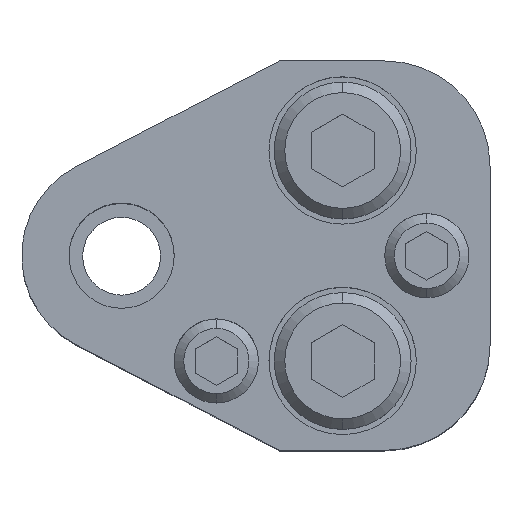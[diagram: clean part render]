
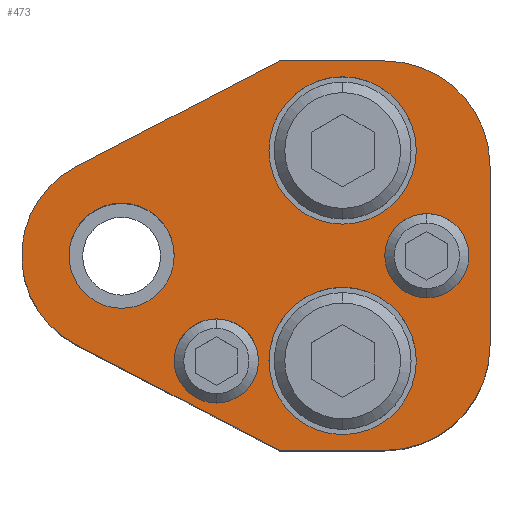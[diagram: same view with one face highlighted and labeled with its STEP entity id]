
A CAD part, top view. The second image highlights one B-rep face of the part: STEP entity #473.
In plain terms, the highlighted planar face has unit normal (0, 0, 1).
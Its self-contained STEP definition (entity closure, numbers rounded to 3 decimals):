
#223=FACE_BOUND('',#843,.T.);
#224=FACE_BOUND('',#844,.T.);
#225=FACE_BOUND('',#845,.T.);
#226=FACE_BOUND('',#846,.T.);
#227=FACE_BOUND('',#847,.T.);
#228=FACE_BOUND('',#848,.T.);
#273=CIRCLE('',#2646,9.5);
#275=CIRCLE('',#2651,10.);
#277=CIRCLE('',#2655,10.);
#287=CIRCLE('',#2672,7.);
#289=CIRCLE('',#2675,7.);
#291=CIRCLE('',#2679,7.);
#293=CIRCLE('',#2682,7.);
#300=CIRCLE('',#2693,5.);
#302=CIRCLE('',#2696,5.);
#321=CIRCLE('',#2730,4.);
#322=CIRCLE('',#2731,4.);
#323=CIRCLE('',#2732,4.);
#324=CIRCLE('',#2733,4.);
#473=ADVANCED_FACE('',(#223,#224,#225,#226,#227,#228),#591,.T.);
#591=PLANE('',#2734);
#843=EDGE_LOOP('',(#1241,#1242,#1243,#1244,#1245,#1246,#1247,#1248));
#844=EDGE_LOOP('',(#1249,#1250));
#845=EDGE_LOOP('',(#1251,#1252));
#846=EDGE_LOOP('',(#1253,#1254));
#847=EDGE_LOOP('',(#1255,#1256));
#848=EDGE_LOOP('',(#1257,#1258));
#1241=ORIENTED_EDGE('',*,*,#1934,.T.);
#1242=ORIENTED_EDGE('',*,*,#1938,.T.);
#1243=ORIENTED_EDGE('',*,*,#1941,.T.);
#1244=ORIENTED_EDGE('',*,*,#1944,.T.);
#1245=ORIENTED_EDGE('',*,*,#1947,.T.);
#1246=ORIENTED_EDGE('',*,*,#1950,.T.);
#1247=ORIENTED_EDGE('',*,*,#1953,.T.);
#1248=ORIENTED_EDGE('',*,*,#1956,.T.);
#1249=ORIENTED_EDGE('',*,*,#2021,.F.);
#1250=ORIENTED_EDGE('',*,*,#2022,.F.);
#1251=ORIENTED_EDGE('',*,*,#2023,.F.);
#1252=ORIENTED_EDGE('',*,*,#2024,.F.);
#1253=ORIENTED_EDGE('',*,*,#1979,.F.);
#1254=ORIENTED_EDGE('',*,*,#1975,.F.);
#1255=ORIENTED_EDGE('',*,*,#1973,.F.);
#1256=ORIENTED_EDGE('',*,*,#1969,.F.);
#1257=ORIENTED_EDGE('',*,*,#1989,.T.);
#1258=ORIENTED_EDGE('',*,*,#1992,.T.);
#1688=VERTEX_POINT('',#3846);
#1689=VERTEX_POINT('',#3848);
#1692=VERTEX_POINT('',#3855);
#1694=VERTEX_POINT('',#3861);
#1696=VERTEX_POINT('',#3867);
#1698=VERTEX_POINT('',#3873);
#1700=VERTEX_POINT('',#3879);
#1702=VERTEX_POINT('',#3885);
#1711=VERTEX_POINT('',#3917);
#1712=VERTEX_POINT('',#3918);
#1715=VERTEX_POINT('',#3930);
#1716=VERTEX_POINT('',#3931);
#1725=VERTEX_POINT('',#3958);
#1726=VERTEX_POINT('',#3960);
#1745=VERTEX_POINT('',#4027);
#1746=VERTEX_POINT('',#4028);
#1747=VERTEX_POINT('',#4031);
#1748=VERTEX_POINT('',#4032);
#1934=EDGE_CURVE('',#1689,#1688,#273,.T.);
#1938=EDGE_CURVE('',#1688,#1692,#2266,.T.);
#1941=EDGE_CURVE('',#1692,#1694,#2269,.T.);
#1944=EDGE_CURVE('',#1694,#1696,#275,.T.);
#1947=EDGE_CURVE('',#1696,#1698,#2273,.T.);
#1950=EDGE_CURVE('',#1698,#1700,#277,.T.);
#1953=EDGE_CURVE('',#1700,#1702,#2277,.T.);
#1956=EDGE_CURVE('',#1702,#1689,#2280,.T.);
#1969=EDGE_CURVE('',#1711,#1712,#287,.T.);
#1973=EDGE_CURVE('',#1712,#1711,#289,.T.);
#1975=EDGE_CURVE('',#1715,#1716,#291,.T.);
#1979=EDGE_CURVE('',#1716,#1715,#293,.T.);
#1989=EDGE_CURVE('',#1726,#1725,#300,.T.);
#1992=EDGE_CURVE('',#1725,#1726,#302,.T.);
#2021=EDGE_CURVE('',#1745,#1746,#321,.T.);
#2022=EDGE_CURVE('',#1746,#1745,#322,.T.);
#2023=EDGE_CURVE('',#1747,#1748,#323,.T.);
#2024=EDGE_CURVE('',#1748,#1747,#324,.T.);
#2266=LINE('',#3856,#2458);
#2269=LINE('',#3862,#2461);
#2273=LINE('',#3874,#2465);
#2277=LINE('',#3886,#2469);
#2280=LINE('',#3890,#2472);
#2458=VECTOR('',#3056,1.);
#2461=VECTOR('',#3061,1.);
#2465=VECTOR('',#3073,1.);
#2469=VECTOR('',#3085,1.);
#2472=VECTOR('',#3090,1.);
#2646=AXIS2_PLACEMENT_3D('',#3847,#3048,#3049);
#2651=AXIS2_PLACEMENT_3D('',#3868,#3066,#3067);
#2655=AXIS2_PLACEMENT_3D('',#3880,#3078,#3079);
#2672=AXIS2_PLACEMENT_3D('',#3916,#3121,#3122);
#2675=AXIS2_PLACEMENT_3D('',#3925,#3129,#3130);
#2679=AXIS2_PLACEMENT_3D('',#3929,#3137,#3138);
#2682=AXIS2_PLACEMENT_3D('',#3938,#3145,#3146);
#2693=AXIS2_PLACEMENT_3D('',#3959,#3170,#3171);
#2696=AXIS2_PLACEMENT_3D('',#3964,#3177,#3178);
#2730=AXIS2_PLACEMENT_3D('',#4026,#3255,#3256);
#2731=AXIS2_PLACEMENT_3D('',#4029,#3257,#3258);
#2732=AXIS2_PLACEMENT_3D('',#4030,#3259,#3260);
#2733=AXIS2_PLACEMENT_3D('',#4033,#3261,#3262);
#2734=AXIS2_PLACEMENT_3D('',#4034,#3263,#3264);
#3048=DIRECTION('',(0.,0.,1.));
#3049=DIRECTION('',(0.,1.,0.));
#3056=DIRECTION('',(0.887,-0.461,0.));
#3061=DIRECTION('',(1.,0.,0.));
#3066=DIRECTION('',(0.,0.,1.));
#3067=DIRECTION('',(-0.707,0.707,0.));
#3073=DIRECTION('',(0.,1.,0.));
#3078=DIRECTION('',(0.,0.,1.));
#3079=DIRECTION('',(-0.707,-0.707,0.));
#3085=DIRECTION('',(-1.,0.,0.));
#3090=DIRECTION('',(-0.887,-0.461,0.));
#3121=DIRECTION('',(0.,0.,1.));
#3122=DIRECTION('',(-1.,0.,0.));
#3129=DIRECTION('',(0.,0.,1.));
#3130=DIRECTION('',(1.,0.,0.));
#3137=DIRECTION('',(0.,0.,1.));
#3138=DIRECTION('',(-1.,0.,0.));
#3145=DIRECTION('',(0.,0.,1.));
#3146=DIRECTION('',(1.,0.,0.));
#3170=DIRECTION('',(0.,0.,-1.));
#3171=DIRECTION('',(-1.,0.,0.));
#3177=DIRECTION('',(0.,0.,-1.));
#3178=DIRECTION('',(1.,0.,0.));
#3255=DIRECTION('',(0.,0.,1.));
#3256=DIRECTION('',(1.,0.,0.));
#3257=DIRECTION('',(0.,0.,1.));
#3258=DIRECTION('',(-1.,0.,0.));
#3259=DIRECTION('',(0.,0.,1.));
#3260=DIRECTION('',(1.,0.,0.));
#3261=DIRECTION('',(0.,0.,1.));
#3262=DIRECTION('',(-1.,0.,0.));
#3263=DIRECTION('',(0.,0.,1.));
#3264=DIRECTION('',(0.887,0.461,0.));
#3846=CARTESIAN_POINT('',(-4.38,-8.43,35.));
#3847=CARTESIAN_POINT('',(0.,0.,35.));
#3848=CARTESIAN_POINT('',(-4.38,8.43,35.));
#3855=CARTESIAN_POINT('',(15.,-18.5,35.));
#3856=CARTESIAN_POINT('',(15.,-18.5,35.));
#3861=CARTESIAN_POINT('',(25.,-18.5,35.));
#3862=CARTESIAN_POINT('',(15.,-18.5,35.));
#3867=CARTESIAN_POINT('',(35.,-8.5,35.));
#3868=CARTESIAN_POINT('',(25.,-8.5,35.));
#3873=CARTESIAN_POINT('',(35.,8.5,35.));
#3874=CARTESIAN_POINT('',(35.,-8.5,35.));
#3879=CARTESIAN_POINT('',(25.,18.5,35.));
#3880=CARTESIAN_POINT('',(25.,8.5,35.));
#3885=CARTESIAN_POINT('',(15.,18.5,35.));
#3886=CARTESIAN_POINT('',(15.,18.5,35.));
#3890=CARTESIAN_POINT('',(15.,18.5,35.));
#3916=CARTESIAN_POINT('',(21.,10.,35.));
#3917=CARTESIAN_POINT('',(21.,3.,35.));
#3918=CARTESIAN_POINT('',(21.,17.,35.));
#3925=CARTESIAN_POINT('',(21.,10.,35.));
#3929=CARTESIAN_POINT('',(21.,-10.,35.));
#3930=CARTESIAN_POINT('',(21.,-17.,35.));
#3931=CARTESIAN_POINT('',(21.,-3.,35.));
#3938=CARTESIAN_POINT('',(21.,-10.,35.));
#3958=CARTESIAN_POINT('',(0.,-5.,35.));
#3959=CARTESIAN_POINT('',(0.,0.,35.));
#3960=CARTESIAN_POINT('',(0.,5.,35.));
#3964=CARTESIAN_POINT('',(0.,0.,35.));
#4026=CARTESIAN_POINT('',(29.,0.,35.));
#4027=CARTESIAN_POINT('',(29.,4.,35.));
#4028=CARTESIAN_POINT('',(29.,-4.,35.));
#4029=CARTESIAN_POINT('',(29.,0.,35.));
#4030=CARTESIAN_POINT('',(9.,-10.,35.));
#4031=CARTESIAN_POINT('',(9.,-6.,35.));
#4032=CARTESIAN_POINT('',(9.,-14.,35.));
#4033=CARTESIAN_POINT('',(9.,-10.,35.));
#4034=CARTESIAN_POINT('',(-4.38,8.43,35.));
